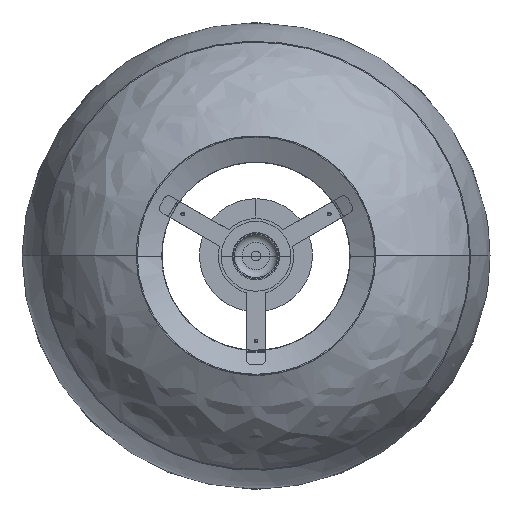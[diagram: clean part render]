
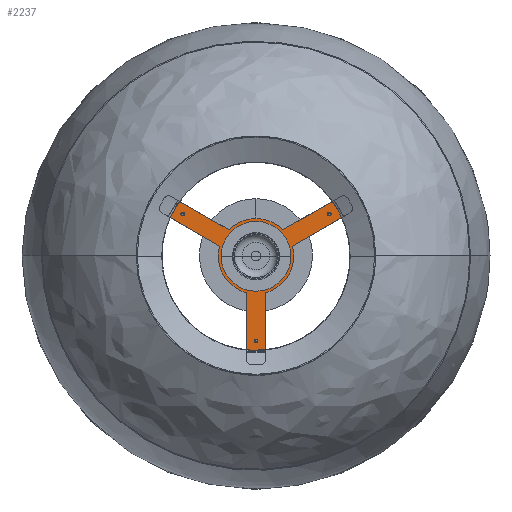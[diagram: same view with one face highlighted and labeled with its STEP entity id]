
A CAD part, top view. The second image highlights one B-rep face of the part: STEP entity #2237.
In plain terms, the highlighted planar face has unit normal (0, 0, 1).
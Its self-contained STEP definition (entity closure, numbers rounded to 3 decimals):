
#42=FACE_BOUND('',#441,.T.);
#43=FACE_BOUND('',#442,.T.);
#44=FACE_BOUND('',#443,.T.);
#45=FACE_BOUND('',#444,.T.);
#166=PLANE('',#2472);
#292=FACE_OUTER_BOUND('',#440,.T.);
#440=EDGE_LOOP('',(#1916,#1917,#1918,#1919,#1920,#1921,#1922,#1923,#1924,
#1925,#1926,#1927,#1928,#1929));
#441=EDGE_LOOP('',(#1930,#1931));
#442=EDGE_LOOP('',(#1932,#1933));
#443=EDGE_LOOP('',(#1934,#1935));
#444=EDGE_LOOP('',(#1936,#1937));
#577=LINE('',#7821,#746);
#580=LINE('',#7826,#749);
#585=LINE('',#7835,#754);
#593=LINE('',#7858,#762);
#596=LINE('',#7867,#765);
#602=LINE('',#7877,#771);
#619=LINE('',#7950,#788);
#622=LINE('',#7954,#791);
#623=LINE('',#7955,#792);
#746=VECTOR('',#2924,304.8);
#749=VECTOR('',#2929,304.8);
#754=VECTOR('',#2936,304.8);
#762=VECTOR('',#2954,304.8);
#765=VECTOR('',#2963,304.8);
#771=VECTOR('',#2971,304.8);
#788=VECTOR('',#3052,304.8);
#791=VECTOR('',#3057,304.8);
#792=VECTOR('',#3058,304.8);
#870=CIRCLE('',#2389,2.);
#872=CIRCLE('',#2392,2.);
#876=CIRCLE('',#2401,2.);
#878=CIRCLE('',#2404,2.);
#882=CIRCLE('',#2413,2.);
#884=CIRCLE('',#2416,2.);
#894=CIRCLE('',#2442,40.);
#895=CIRCLE('',#2444,40.);
#897=CIRCLE('',#2447,40.);
#899=CIRCLE('',#2450,40.);
#902=CIRCLE('',#2454,40.);
#903=CIRCLE('',#2456,25.);
#905=CIRCLE('',#2459,25.);
#1025=VERTEX_POINT('',#7735);
#1026=VERTEX_POINT('',#7737);
#1031=VERTEX_POINT('',#7758);
#1032=VERTEX_POINT('',#7760);
#1037=VERTEX_POINT('',#7781);
#1038=VERTEX_POINT('',#7783);
#1047=VERTEX_POINT('',#7819);
#1048=VERTEX_POINT('',#7820);
#1049=VERTEX_POINT('',#7825);
#1052=VERTEX_POINT('',#7833);
#1061=VERTEX_POINT('',#7856);
#1062=VERTEX_POINT('',#7857);
#1065=VERTEX_POINT('',#7866);
#1068=VERTEX_POINT('',#7875);
#1070=VERTEX_POINT('',#7881);
#1071=VERTEX_POINT('',#7886);
#1073=VERTEX_POINT('',#7895);
#1076=VERTEX_POINT('',#7903);
#1077=VERTEX_POINT('',#7907);
#1078=VERTEX_POINT('',#7908);
#1091=VERTEX_POINT('',#7948);
#1092=VERTEX_POINT('',#7949);
#1273=EDGE_CURVE('',#1026,#1025,#870,.T.);
#1276=EDGE_CURVE('',#1025,#1026,#872,.T.);
#1284=EDGE_CURVE('',#1032,#1031,#876,.T.);
#1287=EDGE_CURVE('',#1031,#1032,#878,.T.);
#1295=EDGE_CURVE('',#1038,#1037,#882,.T.);
#1298=EDGE_CURVE('',#1037,#1038,#884,.T.);
#1313=EDGE_CURVE('',#1047,#1048,#577,.T.);
#1316=EDGE_CURVE('',#1049,#1047,#580,.T.);
#1321=EDGE_CURVE('',#1048,#1052,#585,.T.);
#1331=EDGE_CURVE('',#1061,#1062,#593,.T.);
#1336=EDGE_CURVE('',#1065,#1061,#596,.T.);
#1342=EDGE_CURVE('',#1062,#1068,#602,.T.);
#1346=EDGE_CURVE('',#1070,#1065,#894,.T.);
#1348=EDGE_CURVE('',#1052,#1071,#895,.T.);
#1350=EDGE_CURVE('',#1068,#1049,#897,.T.);
#1352=EDGE_CURVE('',#1073,#1070,#899,.T.);
#1357=EDGE_CURVE('',#1071,#1076,#902,.T.);
#1358=EDGE_CURVE('',#1077,#1078,#903,.T.);
#1362=EDGE_CURVE('',#1078,#1077,#905,.T.);
#1377=EDGE_CURVE('',#1091,#1092,#619,.T.);
#1380=EDGE_CURVE('',#1073,#1092,#622,.T.);
#1381=EDGE_CURVE('',#1091,#1076,#623,.T.);
#1916=ORIENTED_EDGE('',*,*,#1380,.F.);
#1917=ORIENTED_EDGE('',*,*,#1352,.T.);
#1918=ORIENTED_EDGE('',*,*,#1346,.T.);
#1919=ORIENTED_EDGE('',*,*,#1336,.T.);
#1920=ORIENTED_EDGE('',*,*,#1331,.T.);
#1921=ORIENTED_EDGE('',*,*,#1342,.T.);
#1922=ORIENTED_EDGE('',*,*,#1350,.T.);
#1923=ORIENTED_EDGE('',*,*,#1316,.T.);
#1924=ORIENTED_EDGE('',*,*,#1313,.T.);
#1925=ORIENTED_EDGE('',*,*,#1321,.T.);
#1926=ORIENTED_EDGE('',*,*,#1348,.T.);
#1927=ORIENTED_EDGE('',*,*,#1357,.T.);
#1928=ORIENTED_EDGE('',*,*,#1381,.F.);
#1929=ORIENTED_EDGE('',*,*,#1377,.T.);
#1930=ORIENTED_EDGE('',*,*,#1362,.T.);
#1931=ORIENTED_EDGE('',*,*,#1358,.T.);
#1932=ORIENTED_EDGE('',*,*,#1298,.T.);
#1933=ORIENTED_EDGE('',*,*,#1295,.T.);
#1934=ORIENTED_EDGE('',*,*,#1287,.T.);
#1935=ORIENTED_EDGE('',*,*,#1284,.T.);
#1936=ORIENTED_EDGE('',*,*,#1276,.T.);
#1937=ORIENTED_EDGE('',*,*,#1273,.T.);
#2237=ADVANCED_FACE('',(#292,#42,#43,#44,#45),#166,.T.);
#2389=AXIS2_PLACEMENT_3D('',#7738,#2823,#2824);
#2392=AXIS2_PLACEMENT_3D('',#7742,#2830,#2831);
#2401=AXIS2_PLACEMENT_3D('',#7761,#2852,#2853);
#2404=AXIS2_PLACEMENT_3D('',#7765,#2859,#2860);
#2413=AXIS2_PLACEMENT_3D('',#7784,#2881,#2882);
#2416=AXIS2_PLACEMENT_3D('',#7788,#2888,#2889);
#2442=AXIS2_PLACEMENT_3D('',#7884,#2978,#2979);
#2444=AXIS2_PLACEMENT_3D('',#7889,#2983,#2984);
#2447=AXIS2_PLACEMENT_3D('',#7892,#2989,#2990);
#2450=AXIS2_PLACEMENT_3D('',#7896,#2995,#2996);
#2454=AXIS2_PLACEMENT_3D('',#7905,#3005,#3006);
#2456=AXIS2_PLACEMENT_3D('',#7909,#3009,#3010);
#2459=AXIS2_PLACEMENT_3D('',#7916,#3017,#3018);
#2472=AXIS2_PLACEMENT_3D('',#7953,#3055,#3056);
#2823=DIRECTION('center_axis',(0.,0.,-1.));
#2824=DIRECTION('ref_axis',(0.866,-0.5,0.));
#2830=DIRECTION('center_axis',(0.,0.,-1.));
#2831=DIRECTION('ref_axis',(0.866,-0.5,0.));
#2852=DIRECTION('center_axis',(0.,0.,-1.));
#2853=DIRECTION('ref_axis',(-0.866,-0.5,0.));
#2859=DIRECTION('center_axis',(0.,0.,-1.));
#2860=DIRECTION('ref_axis',(-0.866,-0.5,0.));
#2881=DIRECTION('center_axis',(0.,0.,-1.));
#2882=DIRECTION('ref_axis',(0.,1.,0.));
#2888=DIRECTION('center_axis',(0.,0.,-1.));
#2889=DIRECTION('ref_axis',(0.,1.,0.));
#2924=DIRECTION('',(-0.5,-0.866,0.));
#2929=DIRECTION('',(-0.866,0.5,0.));
#2936=DIRECTION('',(0.866,-0.5,0.));
#2954=DIRECTION('',(-0.5,0.866,0.));
#2963=DIRECTION('',(0.866,0.5,0.));
#2971=DIRECTION('',(-0.866,-0.5,0.));
#2978=DIRECTION('center_axis',(0.,0.,1.));
#2979=DIRECTION('ref_axis',(1.,0.,0.));
#2983=DIRECTION('center_axis',(0.,0.,1.));
#2984=DIRECTION('ref_axis',(1.,0.,0.));
#2989=DIRECTION('center_axis',(0.,0.,1.));
#2990=DIRECTION('ref_axis',(1.,0.,0.));
#2995=DIRECTION('center_axis',(0.,0.,1.));
#2996=DIRECTION('ref_axis',(1.,0.,0.));
#3005=DIRECTION('center_axis',(0.,0.,1.));
#3006=DIRECTION('ref_axis',(1.,0.,0.));
#3009=DIRECTION('center_axis',(0.,0.,-1.));
#3010=DIRECTION('ref_axis',(1.,0.,0.));
#3017=DIRECTION('center_axis',(0.,0.,-1.));
#3018=DIRECTION('ref_axis',(1.,0.,0.));
#3052=DIRECTION('',(1.,0.,0.));
#3055=DIRECTION('center_axis',(0.,0.,1.));
#3056=DIRECTION('ref_axis',(-1.,0.,0.));
#3057=DIRECTION('',(0.,-1.,0.));
#3058=DIRECTION('',(0.,1.,0.));
#7735=CARTESIAN_POINT('',(-79.471,45.883,1.5));
#7737=CARTESIAN_POINT('',(-76.007,43.883,1.5));
#7738=CARTESIAN_POINT('Origin',(-77.739,44.883,1.5));
#7742=CARTESIAN_POINT('Origin',(-77.739,44.883,1.5));
#7758=CARTESIAN_POINT('',(79.471,45.883,1.5));
#7760=CARTESIAN_POINT('',(76.007,43.883,1.5));
#7761=CARTESIAN_POINT('Origin',(77.739,44.883,1.5));
#7765=CARTESIAN_POINT('Origin',(77.739,44.883,1.5));
#7781=CARTESIAN_POINT('',(0.,-91.765,1.5));
#7783=CARTESIAN_POINT('',(0.,-87.765,1.5));
#7784=CARTESIAN_POINT('Origin',(0.,-89.765,
1.5));
#7788=CARTESIAN_POINT('Origin',(0.,-89.765,
1.5));
#7819=CARTESIAN_POINT('',(-82.872,59.393,1.5));
#7820=CARTESIAN_POINT('',(-92.872,42.072,1.5));
#7821=CARTESIAN_POINT('',(-82.872,59.393,1.5));
#7825=CARTESIAN_POINT('',(-28.541,28.025,1.5));
#7826=CARTESIAN_POINT('',(-28.541,28.025,1.5));
#7833=CARTESIAN_POINT('',(-38.541,10.705,1.5));
#7835=CARTESIAN_POINT('',(-92.872,42.072,1.5));
#7856=CARTESIAN_POINT('',(92.872,42.072,1.5));
#7857=CARTESIAN_POINT('',(82.872,59.393,1.5));
#7858=CARTESIAN_POINT('',(92.872,42.072,1.5));
#7866=CARTESIAN_POINT('',(38.541,10.705,1.5));
#7867=CARTESIAN_POINT('',(38.541,10.705,1.5));
#7875=CARTESIAN_POINT('',(28.541,28.025,1.5));
#7877=CARTESIAN_POINT('',(82.872,59.393,1.5));
#7881=CARTESIAN_POINT('',(40.,0.,1.5));
#7884=CARTESIAN_POINT('Origin',(0.,0.,1.5));
#7886=CARTESIAN_POINT('',(-40.,0.,1.5));
#7889=CARTESIAN_POINT('Origin',(0.,0.,1.5));
#7892=CARTESIAN_POINT('Origin',(0.,0.,1.5));
#7895=CARTESIAN_POINT('',(10.,-38.73,1.5));
#7896=CARTESIAN_POINT('Origin',(0.,0.,1.5));
#7903=CARTESIAN_POINT('',(-10.,-38.73,1.5));
#7905=CARTESIAN_POINT('Origin',(0.,0.,1.5));
#7907=CARTESIAN_POINT('',(25.,0.,1.5));
#7908=CARTESIAN_POINT('',(-25.,0.,1.5));
#7909=CARTESIAN_POINT('Origin',(0.,0.,1.5));
#7916=CARTESIAN_POINT('Origin',(0.,0.,1.5));
#7948=CARTESIAN_POINT('',(-10.,-101.465,1.5));
#7949=CARTESIAN_POINT('',(10.,-101.465,1.5));
#7950=CARTESIAN_POINT('',(-10.,-101.465,1.5));
#7953=CARTESIAN_POINT('Origin',(10.,-38.73,1.5));
#7954=CARTESIAN_POINT('',(10.,-38.73,1.5));
#7955=CARTESIAN_POINT('',(-10.,-101.465,1.5));
